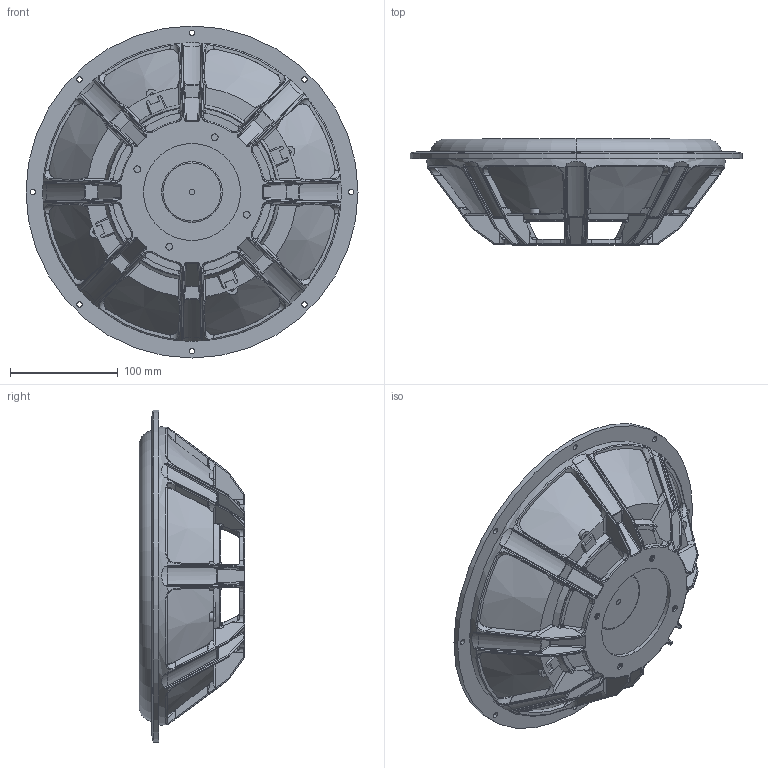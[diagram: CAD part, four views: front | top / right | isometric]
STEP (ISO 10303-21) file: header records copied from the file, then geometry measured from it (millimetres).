
FILE_DESCRIPTION (( 'STEP AP214' ), '1' );
FILE_NAME ('30W-0-00-0.STEP', '2020-10-22T06:41:59', ( '' ), ( '' ), 'SwSTEP 2.0', 'SolidWorks 2019', '' );
FILE_SCHEMA (( 'AUTOMOTIVE_DESIGN' ));
Length unit declared in the file: millimetre
Products named in the file (1): 30W-0-00-0
Bounding box: 308.25 x 98.21 x 308.25 mm (x, y, z)
Volume: 2653064.9 mm3; surface area: 277683 mm2
Topology: 1 solids, 8 shells, 1295 faces, 3606 edges, 2249 vertices
Faces by surface type: cylinder 431, bspline 404, plane 270, cone 68, torus 64, sphere 58
Entity records: 70740 total; most frequent: CARTESIAN_POINT 28854, ORIENTED_EDGE 7116, DIRECTION 4492, EDGE_CURVE 3558, VERTEX_POINT 2249, AXIS2_PLACEMENT_3D 1797, B_SPLINE_CURVE_WITH_KNOTS 1405, EDGE_LOOP 1327
